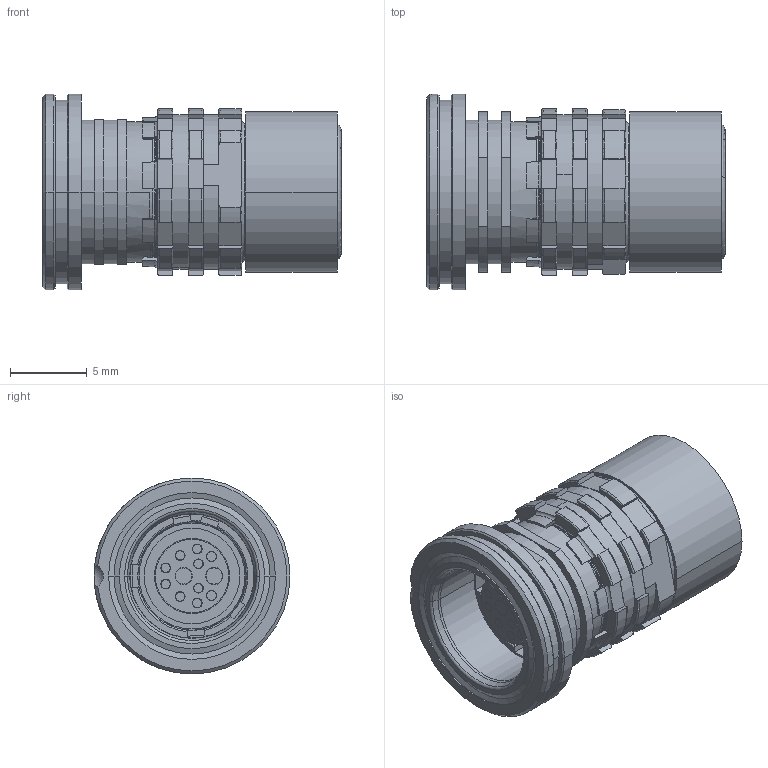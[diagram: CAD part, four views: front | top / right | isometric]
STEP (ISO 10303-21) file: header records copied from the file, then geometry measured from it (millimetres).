
FILE_DESCRIPTION((''),'2;1');
FILE_NAME('K10WAM-P12WMM0-0000-C_SW0002','2020-12-23T10:31:08',('FHeitzinger'),(''),'CREO PARAMETRIC BY PTC INC, 2018300','CREO PARAMETRIC BY PTC INC, 2018300','');
FILE_SCHEMA(('AP242_MANAGED_MODEL_BASED_3D_ENGINEERING_MIM_LF { 1 0 10303 442 1 1 4 }'));
Length unit declared in the file: millimetre
Products named in the file (1): K10WAM-P12WMM0-0000-C_SW0002
Bounding box: 19.5 x 12.8 x 12.8 mm (x, y, z)
Volume: 995 mm3; surface area: 2847.5 mm2
Topology: 2 solids, 2 shells, 890 faces, 2571 edges, 1695 vertices
Faces by surface type: cylinder 313, plane 291, cone 143, torus 129, bspline 13, sphere 1
Entity records: 44105 total; most frequent: CARTESIAN_POINT 14165, ORIENTED_EDGE 5094, DIRECTION 5003, EDGE_CURVE 2547, AXIS2_PLACEMENT_3D 1995, VERTEX_POINT 1695, CIRCLE 1118, VECTOR 1013
